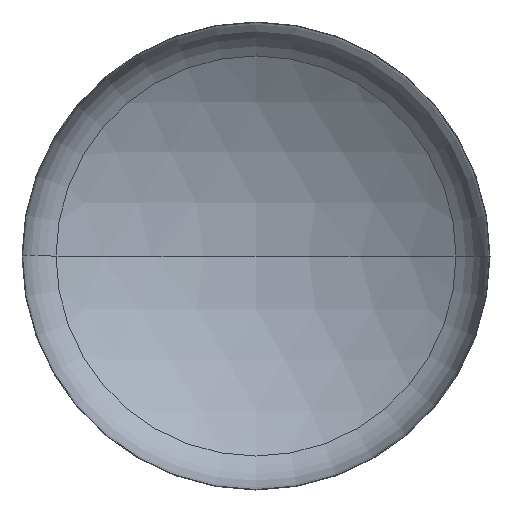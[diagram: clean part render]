
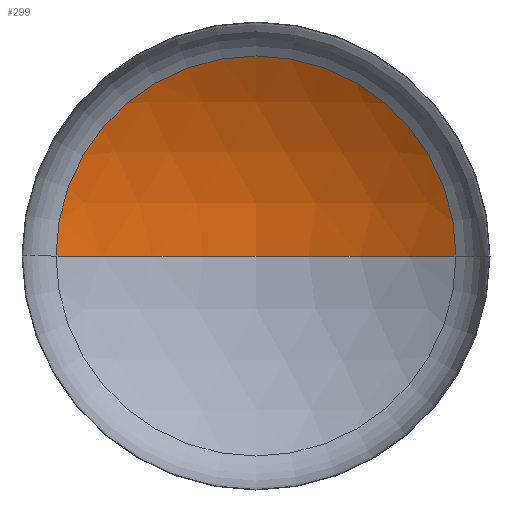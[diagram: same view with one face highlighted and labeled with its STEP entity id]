
A CAD part, front view. The second image highlights one B-rep face of the part: STEP entity #299.
In plain terms, the highlighted spherical face has radius 6400 mm.
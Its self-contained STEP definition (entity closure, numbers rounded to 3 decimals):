
#2 = ORIENTED_EDGE ( 'NONE', *, *, #322, .F. ) ;
#32 = DIRECTION ( 'NONE',  ( -1., 0., 0. ) ) ;
#34 = VERTEX_POINT ( 'NONE', #337 ) ;
#40 = DIRECTION ( 'NONE',  ( 0., 0., -1. ) ) ;
#49 = CARTESIAN_POINT ( 'NONE',  ( 0., -4345.384, 0. ) ) ;
#70 = VERTEX_POINT ( 'NONE', #202 ) ;
#75 = ORIENTED_EDGE ( 'NONE', *, *, #278, .T. ) ;
#76 = EDGE_LOOP ( 'NONE', ( #2, #79, #75 ) ) ;
#79 = ORIENTED_EDGE ( 'NONE', *, *, #261, .T. ) ;
#84 = DIRECTION ( 'NONE',  ( -1., 0., 0. ) ) ;
#97 = VERTEX_POINT ( 'NONE', #315 ) ;
#102 = FACE_OUTER_BOUND ( 'NONE', #76, .T. ) ;
#106 = CARTESIAN_POINT ( 'NONE',  ( 0., -4345.384, 0. ) ) ;
#109 = CIRCLE ( 'NONE', #310, 3419.11 ) ;
#119 = CIRCLE ( 'NONE', #237, 6400. ) ;
#128 = DIRECTION ( 'NONE',  ( 0., -1., 0. ) ) ;
#134 = DIRECTION ( 'NONE',  ( 1., 0., 0. ) ) ;
#135 = CARTESIAN_POINT ( 'NONE',  ( 0., 1064.763, 0. ) ) ;
#136 = DIRECTION ( 'NONE',  ( 0., 0., -1. ) ) ;
#178 = CARTESIAN_POINT ( 'NONE',  ( 0., -4345.384, 0. ) ) ;
#180 = CIRCLE ( 'NONE', #369, 6400. ) ;
#202 = CARTESIAN_POINT ( 'NONE',  ( -3419.11, 1064.763, 0. ) ) ;
#209 = DIRECTION ( 'NONE',  ( 1., 0., 0. ) ) ;
#237 = AXIS2_PLACEMENT_3D ( 'NONE', #49, #40, #32 ) ;
#261 = EDGE_CURVE ( 'NONE', #97, #34, #119, .T. ) ;
#278 = EDGE_CURVE ( 'NONE', #34, #70, #109, .T. ) ;
#299 = ADVANCED_FACE ( 'NONE', ( #102 ), #332, .F. ) ;
#310 = AXIS2_PLACEMENT_3D ( 'NONE', #135, #128, #134 ) ;
#315 = CARTESIAN_POINT ( 'NONE',  ( 0., 2054.616, 0. ) ) ;
#322 = EDGE_CURVE ( 'NONE', #97, #70, #180, .T. ) ;
#332 = SPHERICAL_SURFACE ( 'NONE', #357, 6400. ) ;
#337 = CARTESIAN_POINT ( 'NONE',  ( 3419.11, 1064.763, 0. ) ) ;
#357 = AXIS2_PLACEMENT_3D ( 'NONE', #106, #136, #84 ) ;
#362 = DIRECTION ( 'NONE',  ( 0., 0., 1. ) ) ;
#369 = AXIS2_PLACEMENT_3D ( 'NONE', #178, #362, #209 ) ;
